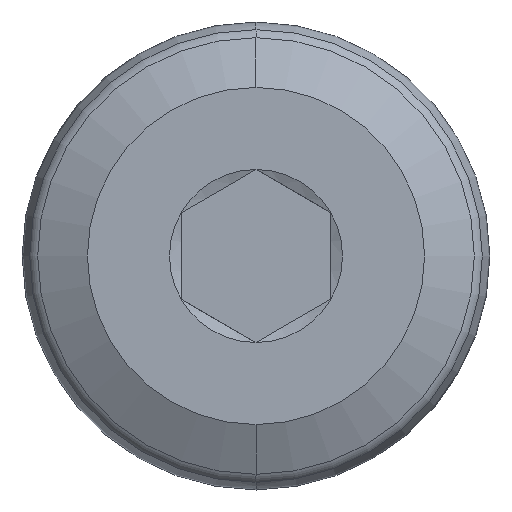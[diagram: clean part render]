
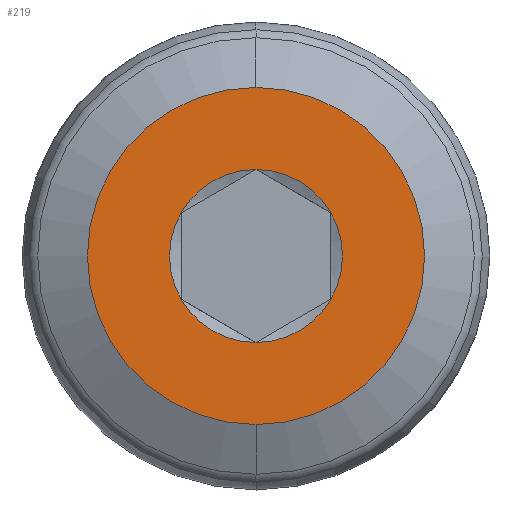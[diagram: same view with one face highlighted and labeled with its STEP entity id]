
A CAD part, left-side view. The second image highlights one B-rep face of the part: STEP entity #219.
In plain terms, the highlighted planar face has unit normal (-1, 0, 0).
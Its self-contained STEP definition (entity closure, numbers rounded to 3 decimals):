
#9 = DIRECTION ( 'NONE',  ( 0., 0., 1. ) ) ;
#30 = CARTESIAN_POINT ( 'NONE',  ( 0., 0., 2.309 ) ) ;
#39 = CARTESIAN_POINT ( 'NONE',  ( 0., 0., 0. ) ) ;
#46 = DIRECTION ( 'NONE',  ( 1., 0., 0. ) ) ;
#49 = VERTEX_POINT ( 'NONE', #481 ) ;
#53 = CIRCLE ( 'NONE', #203, 2.309 ) ;
#60 = FACE_OUTER_BOUND ( 'NONE', #544, .T. ) ;
#76 = VERTEX_POINT ( 'NONE', #543 ) ;
#80 = DIRECTION ( 'NONE',  ( -1., 0., 0. ) ) ;
#85 = AXIS2_PLACEMENT_3D ( 'NONE', #383, #377, #321 ) ;
#104 = ORIENTED_EDGE ( 'NONE', *, *, #542, .T. ) ;
#115 = DIRECTION ( 'NONE',  ( 0., 0., -1. ) ) ;
#149 = CIRCLE ( 'NONE', #751, 2.309 ) ;
#180 = EDGE_CURVE ( 'NONE', #399, #459, #53, .T. ) ;
#186 = CARTESIAN_POINT ( 'NONE',  ( 0., -2., -1.155 ) ) ;
#193 = EDGE_CURVE ( 'NONE', #195, #437, #149, .T. ) ;
#195 = VERTEX_POINT ( 'NONE', #585 ) ;
#200 = FACE_BOUND ( 'NONE', #622, .T. ) ;
#203 = AXIS2_PLACEMENT_3D ( 'NONE', #647, #828, #574 ) ;
#205 = CIRCLE ( 'NONE', #275, 4.5 ) ;
#207 = ORIENTED_EDGE ( 'NONE', *, *, #180, .T. ) ;
#219 = ADVANCED_FACE ( 'NONE', ( #200, #60 ), #517, .T. ) ;
#239 = DIRECTION ( 'NONE',  ( 0., 0., -1. ) ) ;
#252 = ORIENTED_EDGE ( 'NONE', *, *, #295, .T. ) ;
#255 = DIRECTION ( 'NONE',  ( 0., 0., -1. ) ) ;
#275 = AXIS2_PLACEMENT_3D ( 'NONE', #710, #821, #397 ) ;
#276 = AXIS2_PLACEMENT_3D ( 'NONE', #427, #46, #115 ) ;
#285 = AXIS2_PLACEMENT_3D ( 'NONE', #579, #833, #774 ) ;
#295 = EDGE_CURVE ( 'NONE', #459, #705, #444, .T. ) ;
#309 = EDGE_CURVE ( 'NONE', #705, #429, #549, .T. ) ;
#321 = DIRECTION ( 'NONE',  ( 0., 0., -1. ) ) ;
#332 = CARTESIAN_POINT ( 'NONE',  ( 0., 0., 0. ) ) ;
#333 = ORIENTED_EDGE ( 'NONE', *, *, #516, .F. ) ;
#336 = CARTESIAN_POINT ( 'NONE',  ( 0., 0., -2.309 ) ) ;
#366 = DIRECTION ( 'NONE',  ( 1., 0., 0. ) ) ;
#377 = DIRECTION ( 'NONE',  ( 1., 0., 0. ) ) ;
#383 = CARTESIAN_POINT ( 'NONE',  ( 0., 0., 0. ) ) ;
#389 = ORIENTED_EDGE ( 'NONE', *, *, #193, .T. ) ;
#397 = DIRECTION ( 'NONE',  ( 0., 0., -1. ) ) ;
#399 = VERTEX_POINT ( 'NONE', #30 ) ;
#426 = CARTESIAN_POINT ( 'NONE',  ( 0., 0., 0. ) ) ;
#427 = CARTESIAN_POINT ( 'NONE',  ( 0., 0., 0. ) ) ;
#429 = VERTEX_POINT ( 'NONE', #336 ) ;
#437 = VERTEX_POINT ( 'NONE', #597 ) ;
#444 = CIRCLE ( 'NONE', #85, 2.309 ) ;
#459 = VERTEX_POINT ( 'NONE', #537 ) ;
#461 = ORIENTED_EDGE ( 'NONE', *, *, #309, .T. ) ;
#481 = CARTESIAN_POINT ( 'NONE',  ( 0., 0., -4.5 ) ) ;
#499 = ORIENTED_EDGE ( 'NONE', *, *, #740, .F. ) ;
#512 = CIRCLE ( 'NONE', #276, 2.309 ) ;
#516 = EDGE_CURVE ( 'NONE', #76, #49, #644, .T. ) ;
#517 = PLANE ( 'NONE',  #538 ) ;
#537 = CARTESIAN_POINT ( 'NONE',  ( 0., -2., 1.155 ) ) ;
#538 = AXIS2_PLACEMENT_3D ( 'NONE', #712, #80, #9 ) ;
#542 = EDGE_CURVE ( 'NONE', #437, #399, #564, .T. ) ;
#543 = CARTESIAN_POINT ( 'NONE',  ( 0., 0., 4.5 ) ) ;
#544 = EDGE_LOOP ( 'NONE', ( #499, #333 ) ) ;
#549 = CIRCLE ( 'NONE', #285, 2.309 ) ;
#564 = CIRCLE ( 'NONE', #607, 2.309 ) ;
#574 = DIRECTION ( 'NONE',  ( 0., 0., -1. ) ) ;
#579 = CARTESIAN_POINT ( 'NONE',  ( 0., 0., 0. ) ) ;
#583 = EDGE_CURVE ( 'NONE', #429, #195, #512, .T. ) ;
#585 = CARTESIAN_POINT ( 'NONE',  ( 0., 2., -1.155 ) ) ;
#587 = DIRECTION ( 'NONE',  ( 1., 0., 0. ) ) ;
#597 = CARTESIAN_POINT ( 'NONE',  ( 0., 2., 1.155 ) ) ;
#607 = AXIS2_PLACEMENT_3D ( 'NONE', #39, #366, #239 ) ;
#622 = EDGE_LOOP ( 'NONE', ( #104, #207, #252, #461, #780, #389 ) ) ;
#644 = CIRCLE ( 'NONE', #669, 4.5 ) ;
#647 = CARTESIAN_POINT ( 'NONE',  ( 0., 0., 0. ) ) ;
#669 = AXIS2_PLACEMENT_3D ( 'NONE', #426, #743, #676 ) ;
#676 = DIRECTION ( 'NONE',  ( 0., 0., -1. ) ) ;
#705 = VERTEX_POINT ( 'NONE', #186 ) ;
#710 = CARTESIAN_POINT ( 'NONE',  ( 0., 0., 0. ) ) ;
#712 = CARTESIAN_POINT ( 'NONE',  ( 0., 4.5, 0. ) ) ;
#740 = EDGE_CURVE ( 'NONE', #49, #76, #205, .T. ) ;
#743 = DIRECTION ( 'NONE',  ( 1., 0., 0. ) ) ;
#751 = AXIS2_PLACEMENT_3D ( 'NONE', #332, #587, #255 ) ;
#774 = DIRECTION ( 'NONE',  ( 0., 0., -1. ) ) ;
#780 = ORIENTED_EDGE ( 'NONE', *, *, #583, .T. ) ;
#821 = DIRECTION ( 'NONE',  ( 1., 0., 0. ) ) ;
#828 = DIRECTION ( 'NONE',  ( 1., 0., 0. ) ) ;
#833 = DIRECTION ( 'NONE',  ( 1., 0., 0. ) ) ;
